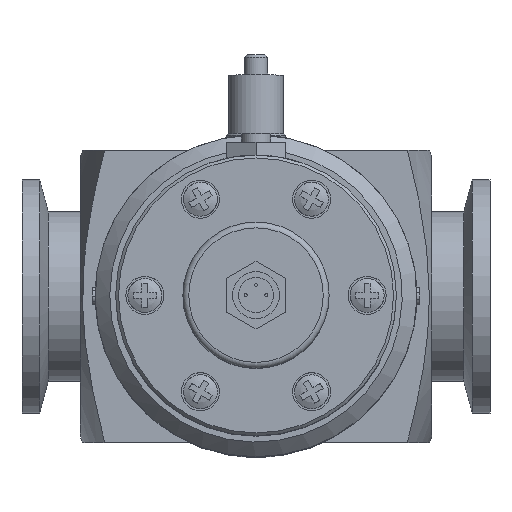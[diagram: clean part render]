
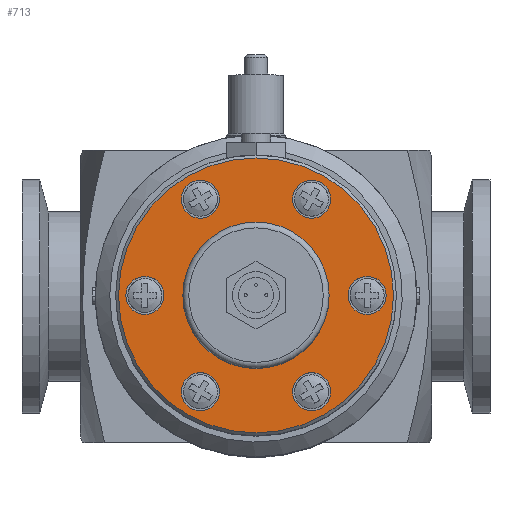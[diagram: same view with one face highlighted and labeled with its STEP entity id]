
A CAD part, top view. The second image highlights one B-rep face of the part: STEP entity #713.
In plain terms, the highlighted planar face has unit normal (0, 0, 1).
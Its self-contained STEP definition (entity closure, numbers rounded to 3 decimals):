
#713 = ADVANCED_FACE( '', ( #1291, #1292, #1293, #1294, #1295, #1296, #1297, #1298 ), #1299, .T. );
#1291 = FACE_BOUND( '', #1777, .T. );
#1292 = FACE_BOUND( '', #1778, .T. );
#1293 = FACE_BOUND( '', #1779, .T. );
#1294 = FACE_BOUND( '', #1780, .T. );
#1295 = FACE_BOUND( '', #1781, .T. );
#1296 = FACE_BOUND( '', #1782, .T. );
#1297 = FACE_OUTER_BOUND( '', #1783, .T. );
#1298 = FACE_BOUND( '', #1784, .T. );
#1299 = PLANE( '', #1785 );
#1777 = EDGE_LOOP( '', ( #2766 ) );
#1778 = EDGE_LOOP( '', ( #2767 ) );
#1779 = EDGE_LOOP( '', ( #2768 ) );
#1780 = EDGE_LOOP( '', ( #2769 ) );
#1781 = EDGE_LOOP( '', ( #2770 ) );
#1782 = EDGE_LOOP( '', ( #2771 ) );
#1783 = EDGE_LOOP( '', ( #2772 ) );
#1784 = EDGE_LOOP( '', ( #2773 ) );
#1785 = AXIS2_PLACEMENT_3D( '', #2774, #2775, #2776 );
#2766 = ORIENTED_EDGE( '', *, *, #3215, .T. );
#2767 = ORIENTED_EDGE( '', *, *, #3223, .T. );
#2768 = ORIENTED_EDGE( '', *, *, #3226, .T. );
#2769 = ORIENTED_EDGE( '', *, *, #3229, .T. );
#2770 = ORIENTED_EDGE( '', *, *, #3232, .T. );
#2771 = ORIENTED_EDGE( '', *, *, #3234, .T. );
#2772 = ORIENTED_EDGE( '', *, *, #3199, .T. );
#2773 = ORIENTED_EDGE( '', *, *, #3237, .T. );
#2774 = CARTESIAN_POINT( '', ( -24., 0., 12. ) );
#2775 = DIRECTION( '', ( 0., 0., 1. ) );
#2776 = DIRECTION( '', ( 1., 0., 0. ) );
#3199 = EDGE_CURVE( '', #3659, #3659, #3660, .T. );
#3215 = EDGE_CURVE( '', #3690, #3690, #3691, .T. );
#3223 = EDGE_CURVE( '', #3703, #3703, #3704, .T. );
#3226 = EDGE_CURVE( '', #3709, #3709, #3710, .T. );
#3229 = EDGE_CURVE( '', #3715, #3715, #3716, .T. );
#3232 = EDGE_CURVE( '', #3721, #3721, #3722, .T. );
#3234 = EDGE_CURVE( '', #3725, #3725, #3726, .T. );
#3237 = EDGE_CURVE( '', #3731, #3731, #3732, .T. );
#3659 = VERTEX_POINT( '', #4668 );
#3660 = CIRCLE( '', #4669, 23.5 );
#3690 = VERTEX_POINT( '', #4701 );
#3691 = CIRCLE( '', #4702, 3.25 );
#3703 = VERTEX_POINT( '', #4719 );
#3704 = CIRCLE( '', #4720, 3.25 );
#3709 = VERTEX_POINT( '', #4725 );
#3710 = CIRCLE( '', #4726, 3.25 );
#3715 = VERTEX_POINT( '', #4731 );
#3716 = CIRCLE( '', #4732, 3.25 );
#3721 = VERTEX_POINT( '', #4737 );
#3722 = CIRCLE( '', #4738, 3.25 );
#3725 = VERTEX_POINT( '', #4741 );
#3726 = CIRCLE( '', #4742, 3.25 );
#3731 = VERTEX_POINT( '', #4747 );
#3732 = CIRCLE( '', #4748, 12.5 );
#4668 = CARTESIAN_POINT( '', ( 23.5, 0., 12. ) );
#4669 = AXIS2_PLACEMENT_3D( '', #5095, #5096, #5097 );
#4701 = CARTESIAN_POINT( '', ( 9.5, 13.204, 12. ) );
#4702 = AXIS2_PLACEMENT_3D( '', #5139, #5140, #5141 );
#4719 = CARTESIAN_POINT( '', ( -9.5, 13.204, 12. ) );
#4720 = AXIS2_PLACEMENT_3D( '', #5153, #5154, #5155 );
#4725 = CARTESIAN_POINT( '', ( -19., -3.25, 12. ) );
#4726 = AXIS2_PLACEMENT_3D( '', #5162, #5163, #5164 );
#4731 = CARTESIAN_POINT( '', ( -9.5, -19.704, 12. ) );
#4732 = AXIS2_PLACEMENT_3D( '', #5171, #5172, #5173 );
#4737 = CARTESIAN_POINT( '', ( 9.5, -19.704, 12. ) );
#4738 = AXIS2_PLACEMENT_3D( '', #5180, #5181, #5182 );
#4741 = CARTESIAN_POINT( '', ( 19., -3.25, 12. ) );
#4742 = AXIS2_PLACEMENT_3D( '', #5186, #5187, #5188 );
#4747 = CARTESIAN_POINT( '', ( -12.5, 0., 12. ) );
#4748 = AXIS2_PLACEMENT_3D( '', #5195, #5196, #5197 );
#5095 = CARTESIAN_POINT( '', ( 0., 0., 12. ) );
#5096 = DIRECTION( '', ( 0., 0., 1. ) );
#5097 = DIRECTION( '', ( 1., 0., 0. ) );
#5139 = CARTESIAN_POINT( '', ( 9.5, 16.454, 12. ) );
#5140 = DIRECTION( '', ( 0., 0., -1. ) );
#5141 = DIRECTION( '', ( 0., -1., 0. ) );
#5153 = CARTESIAN_POINT( '', ( -9.5, 16.454, 12. ) );
#5154 = DIRECTION( '', ( 0., 0., -1. ) );
#5155 = DIRECTION( '', ( 0., -1., 0. ) );
#5162 = CARTESIAN_POINT( '', ( -19., 0., 12. ) );
#5163 = DIRECTION( '', ( 0., 0., -1. ) );
#5164 = DIRECTION( '', ( 0., -1., 0. ) );
#5171 = CARTESIAN_POINT( '', ( -9.5, -16.454, 12. ) );
#5172 = DIRECTION( '', ( 0., 0., -1. ) );
#5173 = DIRECTION( '', ( 0., -1., 0. ) );
#5180 = CARTESIAN_POINT( '', ( 9.5, -16.454, 12. ) );
#5181 = DIRECTION( '', ( 0., 0., -1. ) );
#5182 = DIRECTION( '', ( 0., -1., 0. ) );
#5186 = CARTESIAN_POINT( '', ( 19., 0., 12. ) );
#5187 = DIRECTION( '', ( 0., 0., -1. ) );
#5188 = DIRECTION( '', ( 0., -1., 0. ) );
#5195 = CARTESIAN_POINT( '', ( 0., 0., 12. ) );
#5196 = DIRECTION( '', ( 0., 0., -1. ) );
#5197 = DIRECTION( '', ( -1., 0., 0. ) );
